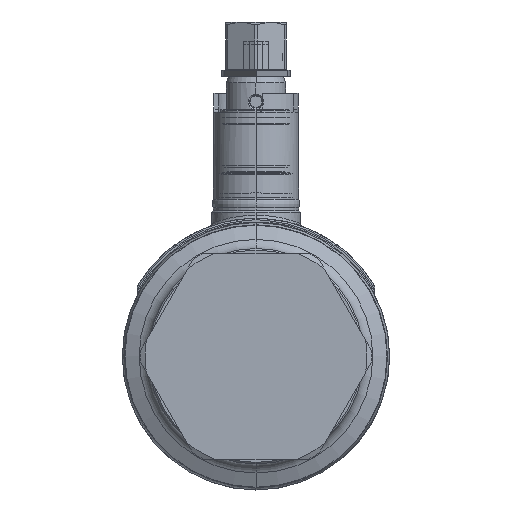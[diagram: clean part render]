
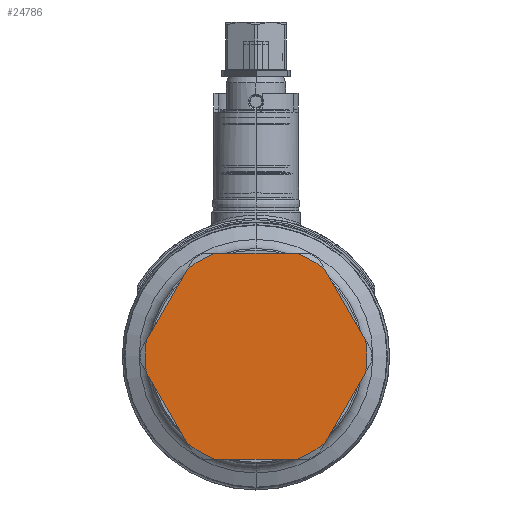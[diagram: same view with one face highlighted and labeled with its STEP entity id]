
A CAD part, left-side view. The second image highlights one B-rep face of the part: STEP entity #24786.
In plain terms, the highlighted planar face has unit normal (-1, 0, 0).
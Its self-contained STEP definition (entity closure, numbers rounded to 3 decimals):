
#9008=CARTESIAN_POINT('',(-75.,34.641,-5.));
#9022=CARTESIAN_POINT('',(-75.,34.641,5.));
#9024=CARTESIAN_POINT('',(-75.,0.,0.));
#9025=DIRECTION('',(-1.,0.,0.));
#9026=DIRECTION('',(0.,0.99,0.143));
#9027=AXIS2_PLACEMENT_3D('',#9024,#9025,#9026);
#9029=DIRECTION('',(0.,1.,0.));
#9030=VECTOR('',#9029,25.981);
#9031=CARTESIAN_POINT('',(-75.,-12.99,32.5));
#9032=LINE('',#9031,#9030);
#9033=DIRECTION('',(0.,0.5,0.866));
#9034=VECTOR('',#9033,25.981);
#9035=CARTESIAN_POINT('',(-75.,-34.641,5.));
#9036=LINE('',#9035,#9034);
#9037=DIRECTION('',(0.,0.5,-0.866));
#9038=VECTOR('',#9037,25.981);
#9039=CARTESIAN_POINT('',(-75.,-34.641,-5.));
#9040=LINE('',#9039,#9038);
#9041=DIRECTION('',(0.,-1.,0.));
#9042=VECTOR('',#9041,25.981);
#9043=CARTESIAN_POINT('',(-75.,12.99,-32.5));
#9044=LINE('',#9043,#9042);
#9045=DIRECTION('',(0.,-0.5,-0.866));
#9046=VECTOR('',#9045,25.981);
#9047=CARTESIAN_POINT('',(-75.,34.641,-5.));
#9048=LINE('',#9047,#9046);
#9049=DIRECTION('',(0.,-0.5,0.866));
#9050=VECTOR('',#9049,25.981);
#9051=CARTESIAN_POINT('',(-75.,34.641,5.));
#9052=LINE('',#9051,#9050);
#9053=CARTESIAN_POINT('',(-75.,21.651,27.5));
#9067=CARTESIAN_POINT('',(-75.,12.99,32.5));
#9069=CARTESIAN_POINT('',(-75.,0.,0.));
#9070=DIRECTION('',(-1.,0.,0.));
#9071=DIRECTION('',(0.,0.371,0.929));
#9072=AXIS2_PLACEMENT_3D('',#9069,#9070,#9071);
#9080=CARTESIAN_POINT('',(-75.,-12.99,32.5));
#9082=CARTESIAN_POINT('',(-75.,-21.651,27.5));
#9090=CARTESIAN_POINT('',(-75.,0.,0.));
#9091=DIRECTION('',(1.,0.,0.));
#9092=DIRECTION('',(0.,-0.371,0.929));
#9093=AXIS2_PLACEMENT_3D('',#9090,#9091,#9092);
#9114=CARTESIAN_POINT('',(-75.,-34.641,5.));
#9116=CARTESIAN_POINT('',(-75.,-34.641,-5.));
#9124=CARTESIAN_POINT('',(-75.,0.,0.));
#9125=DIRECTION('',(1.,0.,0.));
#9126=DIRECTION('',(0.,-0.99,0.143));
#9127=AXIS2_PLACEMENT_3D('',#9124,#9125,#9126);
#9129=CARTESIAN_POINT('',(-75.,-12.99,-32.5));
#9137=CARTESIAN_POINT('',(-75.,0.,0.));
#9138=DIRECTION('',(1.,0.,0.));
#9139=DIRECTION('',(0.,-0.619,-0.786));
#9140=AXIS2_PLACEMENT_3D('',#9137,#9138,#9139);
#9148=CARTESIAN_POINT('',(-75.,-21.651,-27.5));
#9150=CARTESIAN_POINT('',(-75.,12.99,-32.5));
#9164=CARTESIAN_POINT('',(-75.,21.651,-27.5));
#9166=CARTESIAN_POINT('',(-75.,0.,0.));
#9167=DIRECTION('',(-1.,0.,0.));
#9168=DIRECTION('',(0.,0.619,-0.786));
#9169=AXIS2_PLACEMENT_3D('',#9166,#9167,#9168);
#10468=VERTEX_POINT('',#9150);
#10469=VERTEX_POINT('',#9008);
#10470=VERTEX_POINT('',#9164);
#10471=VERTEX_POINT('',#9053);
#10472=VERTEX_POINT('',#9022);
#10473=VERTEX_POINT('',#9067);
#10504=VERTEX_POINT('',#9129);
#10505=VERTEX_POINT('',#9080);
#10506=VERTEX_POINT('',#9114);
#10507=VERTEX_POINT('',#9082);
#10508=VERTEX_POINT('',#9148);
#10509=VERTEX_POINT('',#9116);
#24762=CARTESIAN_POINT('',(-75.,0.,0.));
#24763=DIRECTION('',(-1.,0.,0.));
#24764=DIRECTION('',(0.,0.,-1.));
#24765=AXIS2_PLACEMENT_3D('',#24762,#24763,#24764);
#24766=PLANE('',#24765);
#24768=ORIENTED_EDGE('',*,*,#24767,.F.);
#24769=ORIENTED_EDGE('',*,*,#24545,.F.);
#24771=ORIENTED_EDGE('',*,*,#24770,.T.);
#24772=ORIENTED_EDGE('',*,*,#24575,.F.);
#24774=ORIENTED_EDGE('',*,*,#24773,.T.);
#24775=ORIENTED_EDGE('',*,*,#24625,.T.);
#24777=ORIENTED_EDGE('',*,*,#24776,.T.);
#24778=ORIENTED_EDGE('',*,*,#24661,.F.);
#24780=ORIENTED_EDGE('',*,*,#24779,.F.);
#24781=ORIENTED_EDGE('',*,*,#24711,.F.);
#24782=ORIENTED_EDGE('',*,*,#24757,.F.);
#24783=ORIENTED_EDGE('',*,*,#24504,.T.);
#24784=EDGE_LOOP('',(#24768,#24769,#24771,#24772,#24774,#24775,#24777,#24778,
#24780,#24781,#24782,#24783));
#24785=FACE_OUTER_BOUND('',#24784,.F.);
#24786=ADVANCED_FACE('',(#24785),#24766,.T.);
#9028=CIRCLE('',#9027,35.);
#9073=CIRCLE('',#9072,35.);
#9094=CIRCLE('',#9093,35.);
#9128=CIRCLE('',#9127,35.);
#9141=CIRCLE('',#9140,35.);
#9170=CIRCLE('',#9169,35.);
#24504=EDGE_CURVE('',#10472,#10471,#9052,.T.);
#24545=EDGE_CURVE('',#10505,#10473,#9032,.T.);
#24575=EDGE_CURVE('',#10506,#10507,#9036,.T.);
#24625=EDGE_CURVE('',#10509,#10508,#9040,.T.);
#24661=EDGE_CURVE('',#10468,#10504,#9044,.T.);
#24711=EDGE_CURVE('',#10469,#10470,#9048,.T.);
#24757=EDGE_CURVE('',#10472,#10469,#9028,.T.);
#24767=EDGE_CURVE('',#10473,#10471,#9073,.T.);
#24770=EDGE_CURVE('',#10505,#10507,#9094,.T.);
#24773=EDGE_CURVE('',#10506,#10509,#9128,.T.);
#24776=EDGE_CURVE('',#10508,#10504,#9141,.T.);
#24779=EDGE_CURVE('',#10470,#10468,#9170,.T.);
